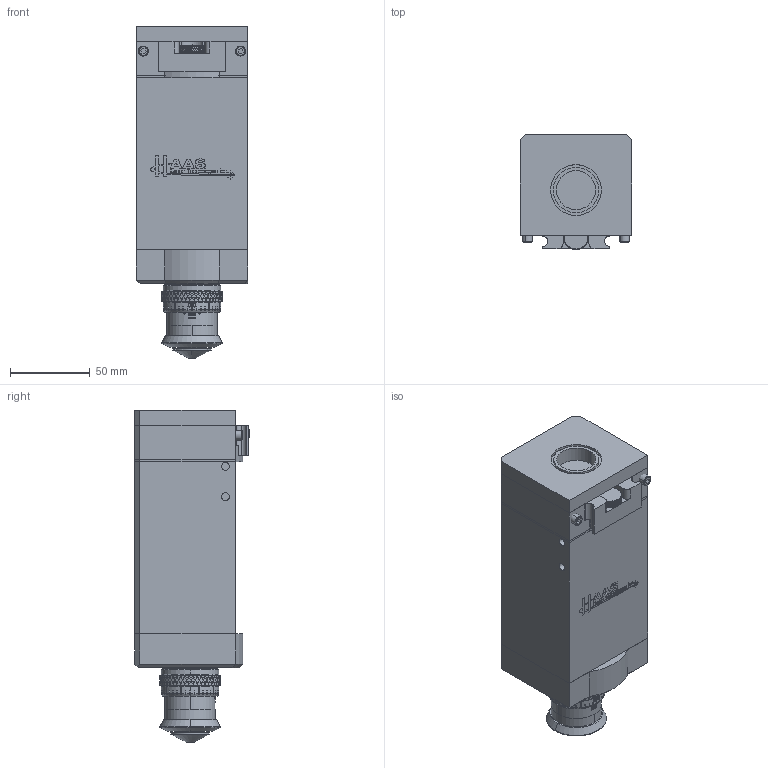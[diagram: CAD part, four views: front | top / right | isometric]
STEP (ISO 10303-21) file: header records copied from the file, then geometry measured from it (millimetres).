
FILE_DESCRIPTION (( 'STEP AP214' ), '1' );
FILE_NAME ('G6-25-28-191.STEP', '2016-11-03T16:02:27', ( '' ), ( '' ), 'SwSTEP 2.0', 'SolidWorks 2016', '' );
FILE_SCHEMA (( 'AUTOMOTIVE_DESIGN' ));
Length unit declared in the file: inch
Products named in the file (1): G6-25-28-191
Bounding box: 69.85 x 72.26 x 208.75 mm (x, y, z)
Volume: 770443.2 mm3; surface area: 118847.3 mm2
Topology: 21 solids, 21 shells, 4091 faces, 10971 edges, 7005 vertices
Faces by surface type: plane 3098, cylinder 842, cone 85, bspline 50, torus 8, sphere 8
Entity records: 129737 total; most frequent: CARTESIAN_POINT 35693, ORIENTED_EDGE 21934, DIRECTION 16642, EDGE_CURVE 10967, VERTEX_POINT 7005, VECTOR 6282, LINE 6282, AXIS2_PLACEMENT_3D 5180
